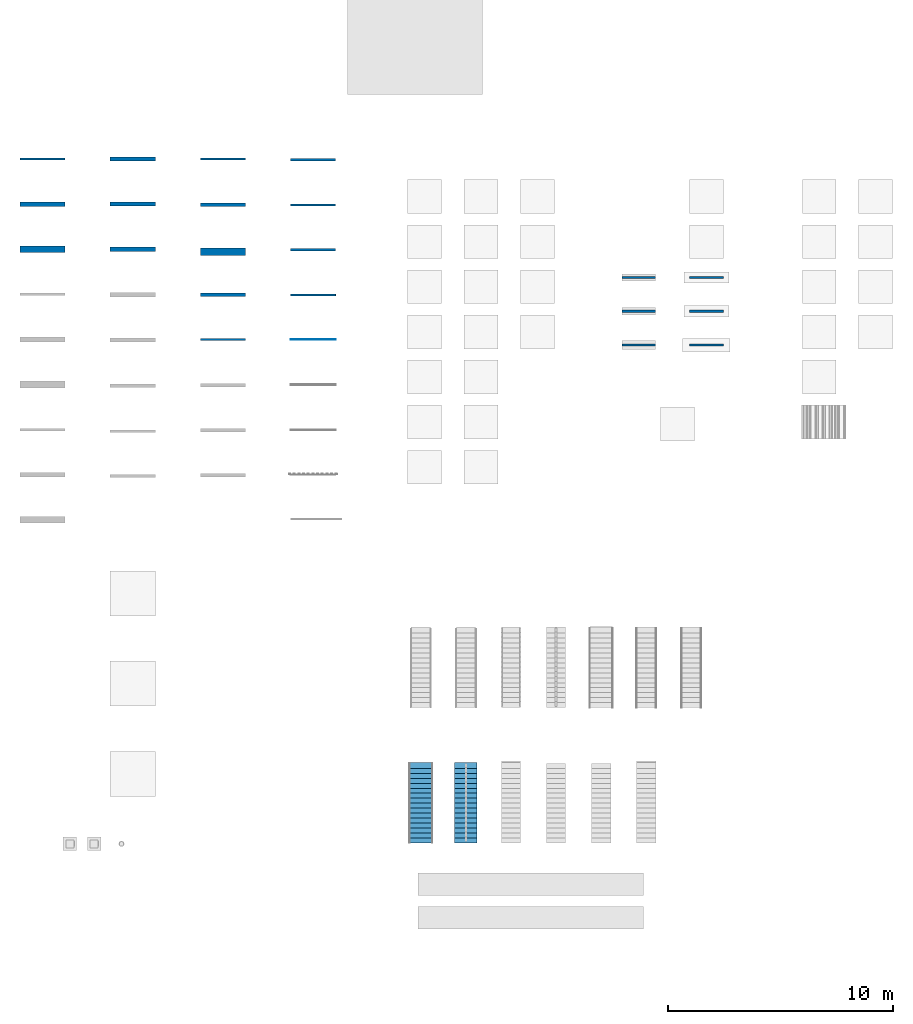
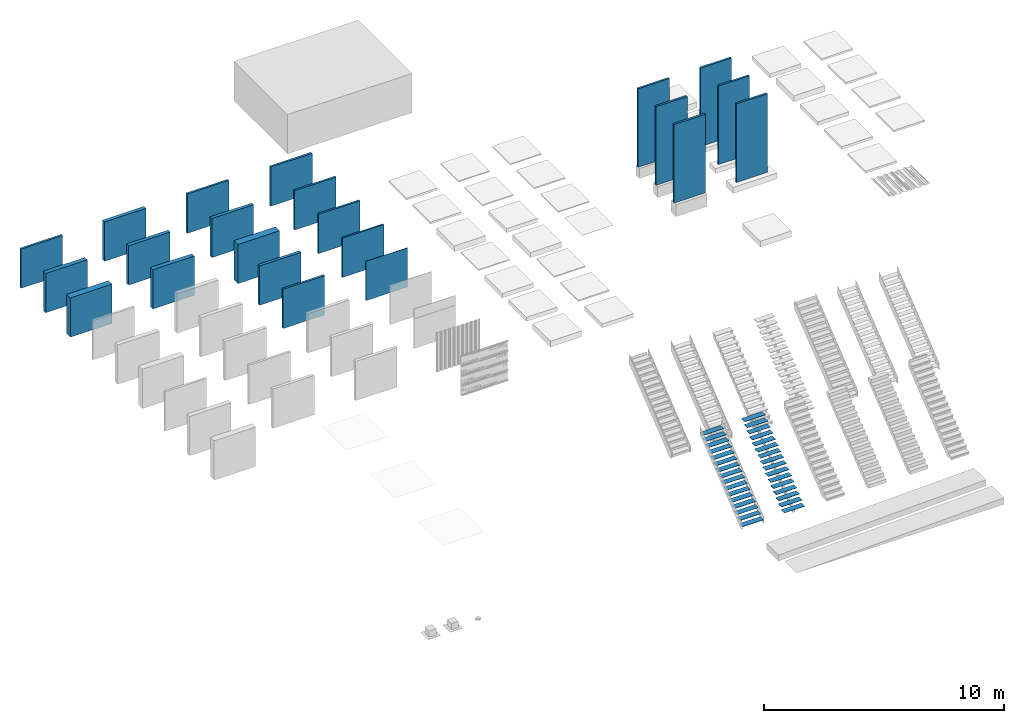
# One storey, part 5 of 14: 22 walls, 2 stair flights, 2 elements without a shape of their own.
"""IFC2X3 building model written with IfcOpenShell, lengths in millimetres."""

from ifc_helpers import new_model, entity, si_unit, converted_unit, derived_unit, direction, frame, frame_2d, origin, origin_2d_with_axis, place, context, subcontext, project, spatial, rectangle, extrude, material, layer, layer_set, layer_usage, type_object, element, aggregate, save


model = new_model("IFC2X3")

# Units and contexts
model_context = context("Model", 3, precision=0.01, world=origin(), true_north=direction((6.12303176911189e-17, 1.0)))
body_context = subcontext(model_context, "Body", "Model", "MODEL_VIEW")
ifc_project = project(units=[si_unit("LENGTHUNIT", "METRE", prefix="MILLI"), si_unit("AREAUNIT", "SQUARE_METRE"), si_unit("VOLUMEUNIT", "CUBIC_METRE"), converted_unit("PLANEANGLEUNIT", "DEGREE", entity("IfcRatioMeasure", 0.0174532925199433), si_unit("PLANEANGLEUNIT", "RADIAN"), dimensions=[0, 0, 0, 0, 0, 0, 0]), si_unit("MASSUNIT", "GRAM", prefix="KILO"), si_unit("TIMEUNIT", "SECOND"), si_unit("FREQUENCYUNIT", "HERTZ"), si_unit("THERMODYNAMICTEMPERATUREUNIT", "KELVIN"), derived_unit("THERMALTRANSMITTANCEUNIT", [(si_unit("MASSUNIT", "GRAM", prefix="KILO"), 1), (si_unit("THERMODYNAMICTEMPERATUREUNIT", "KELVIN"), -1), (si_unit("TIMEUNIT", "SECOND"), -3)]), derived_unit("VOLUMETRICFLOWRATEUNIT", [(si_unit("LENGTHUNIT", "METRE"), 3), (si_unit("TIMEUNIT", "SECOND"), -1)]), si_unit("ELECTRICCURRENTUNIT", "AMPERE"), si_unit("ELECTRICVOLTAGEUNIT", "VOLT"), si_unit("POWERUNIT", "WATT")], contexts=[model_context])

# Site, building, storey
site_placement = place(None, origin())
site = spatial("IfcSite", under=ifc_project, at=site_placement, Name="Surface", CompositionType="ELEMENT")
building_placement = place(site_placement, origin())
building = spatial("IfcBuilding", under=site, at=building_placement, CompositionType="ELEMENT")
storey_placement = place(building_placement, origin())
storey = spatial("IfcBuildingStorey", under=building, at=storey_placement, Name="00_begane grond", CompositionType="ELEMENT", Elevation=0.0)

# Walls
ifc_material_1 = material(Name="Default")
ifc_layer_1 = layer(ifc_material_1, 100.0)
ifc_layer_set_1 = layer_set([ifc_layer_1], Name="Basic Wall:20_WA_wand_generiek_100")
ifc_layer_usage_1 = layer_usage(ifc_layer_set_1, "AXIS2", "NEGATIVE", 50.0)
wall_type_1 = type_object("IfcWallType", Name="Basic Wall:20_WA_wand_generiek_100", PredefinedType="STANDARD", material=ifc_layer_set_1)
wall_1_placement = place(storey_placement, frame((0.0, -1000.0, 0.0)))
element("IfcWallStandardCase", 1, at=wall_1_placement, inside=storey, type_object=wall_type_1, material=ifc_layer_usage_1, Name="Basic Wall:20_WA_wand_generiek_100", ObjectType="Basic Wall:20_WA_wand_generiek_100:1384", context=body_context, shape_type="SweptSolid", body=[
    extrude(rectangle(XDim=2000.0, YDim=100.0, at=frame_2d((1000.0, -7.105427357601e-15), x_axis=(-1.0, 0.0))), origin(), (0.0, 0.0, 1.0), 2000.0),
])
ifc_layer_usage_2 = layer_usage(ifc_layer_set_1, "AXIS2", "NEGATIVE", 50.0)
wall_2_placement = place(storey_placement, frame((29689.8687148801, -6248.9380073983, 0.0)))
element("IfcWallStandardCase", 2, at=wall_2_placement, inside=storey, type_object=wall_type_1, material=ifc_layer_usage_2, Name="Basic Wall:20_WA_wand_generiek_100", ObjectType="Basic Wall:20_WA_wand_generiek_100:1384", context=body_context, shape_type="SweptSolid", body=[
    extrude(rectangle(XDim=1500.0, YDim=99.9999999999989, at=frame_2d((750.000000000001, -7.8159700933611e-14), x_axis=(-1.0, 0.0))), origin(), (0.0, 0.0, 1.0), 4000.0),
])
ifc_layer_usage_3 = layer_usage(ifc_layer_set_1, "AXIS2", "NEGATIVE", 50.0)
wall_3_placement = place(storey_placement, frame((29689.8687148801, -7748.9380073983, 0.0)))
element("IfcWallStandardCase", 3, at=wall_3_placement, inside=storey, type_object=wall_type_1, material=ifc_layer_usage_3, Name="Basic Wall:20_WA_wand_generiek_100", ObjectType="Basic Wall:20_WA_wand_generiek_100:1384", context=body_context, shape_type="SweptSolid", body=[
    extrude(rectangle(XDim=1500.0, YDim=100.000000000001, at=frame_2d((750.000000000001, -8.17124146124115e-14), x_axis=(-1.0, 0.0))), origin(), (0.0, 0.0, 1.0), 4000.0),
])
ifc_layer_usage_4 = layer_usage(ifc_layer_set_1, "AXIS2", "NEGATIVE", 50.0)
wall_4_placement = place(storey_placement, frame((29689.8687148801, -9248.9380073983, 0.0)))
element("IfcWallStandardCase", 4, at=wall_4_placement, inside=storey, type_object=wall_type_1, material=ifc_layer_usage_4, Name="Basic Wall:20_WA_wand_generiek_100", ObjectType="Basic Wall:20_WA_wand_generiek_100:1384", context=body_context, shape_type="SweptSolid", body=[
    extrude(rectangle(XDim=1500.0, YDim=99.9999999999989, at=frame_2d((750.000000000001, -7.8159700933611e-14), x_axis=(-1.0, 0.0))), origin(), (0.0, 0.0, 1.0), 4000.0),
])
ifc_layer_usage_5 = layer_usage(ifc_layer_set_1, "AXIS2", "NEGATIVE", 50.0)
wall_5_placement = place(storey_placement, frame((26689.8687148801, -6248.93800739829, 0.0)))
element("IfcWallStandardCase", 5, at=wall_5_placement, inside=storey, type_object=wall_type_1, material=ifc_layer_usage_5, Name="Basic Wall:20_WA_wand_generiek_100", ObjectType="Basic Wall:20_WA_wand_generiek_100:1384", context=body_context, shape_type="SweptSolid", body=[
    extrude(rectangle(XDim=1500.0, YDim=100.000000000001, at=frame_2d((750.000000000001, -8.17124146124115e-14), x_axis=(-1.0, 0.0))), origin(), (0.0, 0.0, 1.0), 4000.0),
])
ifc_layer_usage_6 = layer_usage(ifc_layer_set_1, "AXIS2", "NEGATIVE", 50.0)
wall_6_placement = place(storey_placement, frame((26689.8687148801, -7748.93800739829, 0.0)))
element("IfcWallStandardCase", 6, at=wall_6_placement, inside=storey, type_object=wall_type_1, material=ifc_layer_usage_6, Name="Basic Wall:20_WA_wand_generiek_100", ObjectType="Basic Wall:20_WA_wand_generiek_100:1384", context=body_context, shape_type="SweptSolid", body=[
    extrude(rectangle(XDim=1500.0, YDim=99.9999999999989, at=frame_2d((750.000000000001, -7.8159700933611e-14), x_axis=(-1.0, 0.0))), origin(), (0.0, 0.0, 1.0), 4000.0),
])
ifc_layer_usage_7 = layer_usage(ifc_layer_set_1, "AXIS2", "NEGATIVE", 50.0)
wall_7_placement = place(storey_placement, frame((26689.86871488, -9248.93800739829, 0.0)))
element("IfcWallStandardCase", 7, at=wall_7_placement, inside=storey, type_object=wall_type_1, material=ifc_layer_usage_7, Name="Basic Wall:20_WA_wand_generiek_100", ObjectType="Basic Wall:20_WA_wand_generiek_100:1384", context=body_context, shape_type="SweptSolid", body=[
    extrude(rectangle(XDim=1500.0, YDim=100.000000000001, at=frame_2d((750.000000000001, -8.17124146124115e-14), x_axis=(-1.0, 0.0))), origin(), (0.0, 0.0, 1.0), 4000.0),
])
ifc_layer_2 = layer(ifc_material_1, 200.0)
ifc_layer_set_2 = layer_set([ifc_layer_2], Name="Basic Wall:20_WA_wand_generiek_200")
ifc_layer_usage_8 = layer_usage(ifc_layer_set_2, "AXIS2", "NEGATIVE", 100.0)
wall_type_2 = type_object("IfcWallType", Name="Basic Wall:20_WA_wand_generiek_200", PredefinedType="STANDARD", material=ifc_layer_set_2)
wall_8_placement = place(storey_placement, frame((0.0, -3000.0, 0.0)))
element("IfcWallStandardCase", 8, at=wall_8_placement, inside=storey, type_object=wall_type_2, material=ifc_layer_usage_8, Name="Basic Wall:20_WA_wand_generiek_200", ObjectType="Basic Wall:20_WA_wand_generiek_200", context=body_context, shape_type="SweptSolid", body=[
    extrude(rectangle(XDim=2000.0, YDim=200.0, at=frame_2d((1000.0, -7.105427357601e-15), x_axis=(-1.0, 0.0))), origin(), (0.0, 0.0, 1.0), 2000.0),
])
ifc_layer_3 = layer(ifc_material_1, 300.0)
ifc_layer_set_3 = layer_set([ifc_layer_3], Name="Basic Wall:20_WA_wand_generiek_300")
ifc_layer_usage_9 = layer_usage(ifc_layer_set_3, "AXIS2", "NEGATIVE", 150.0)
wall_type_3 = type_object("IfcWallType", Name="Basic Wall:20_WA_wand_generiek_300", PredefinedType="STANDARD", material=ifc_layer_set_3)
wall_9_placement = place(storey_placement, frame((0.0, -5000.0, 0.0)))
element("IfcWallStandardCase", 9, at=wall_9_placement, inside=storey, type_object=wall_type_3, material=ifc_layer_usage_9, Name="Basic Wall:20_WA_wand_generiek_300", ObjectType="Basic Wall:20_WA_wand_generiek_300", context=body_context, shape_type="SweptSolid", body=[
    extrude(rectangle(XDim=2000.0, YDim=300.000000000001, at=frame_2d((1000.0, -2.70006239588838e-13), x_axis=(-1.0, 0.0))), origin(), (0.0, 0.0, 1.0), 2000.0),
])
ifc_material_2 = material(Name="20_baksteen_wf_210x100x50_10mm_voeg_halfsteens_rood_genuanceerd")
ifc_layer_4 = layer(ifc_material_2, 100.0)
ifc_material_3 = material(Name="00_lucht_spouw_muur_geventileerd")
ifc_layer_5 = layer(ifc_material_3, 70.0)
ifc_layer_set_4 = layer_set([ifc_layer_4, ifc_layer_5], Name="Basic Wall:-70")
ifc_layer_usage_10 = layer_usage(ifc_layer_set_4, "AXIS2", "NEGATIVE", 85.0)
wall_type_4 = type_object("IfcWallType", Name="Basic Wall:-70", PredefinedType="STANDARD", material=ifc_layer_set_4)
wall_10_placement = place(storey_placement, frame((4000.0, -1000.0, 0.0)))
element("IfcWallStandardCase", 10, at=wall_10_placement, inside=storey, type_object=wall_type_4, material=ifc_layer_usage_10, Name="Basic Wall:-70", ObjectType="Basic Wall:-70", context=body_context, shape_type="SweptSolid", body=[
    extrude(rectangle(XDim=2000.0, YDim=170.0, at=frame_2d((1000.0, -7.105427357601e-15), x_axis=(-1.0, 0.0))), origin(), (0.0, 0.0, 1.0), 2000.0),
])
ifc_layer_6 = layer(ifc_material_2, 100.0)
ifc_layer_7 = layer(ifc_material_3, 20.0)
ifc_material_4 = material(Name="20_isolatie_steenwol")
ifc_layer_8 = layer(ifc_material_4, 50.0)
ifc_layer_set_5 = layer_set([ifc_layer_6, ifc_layer_7, ifc_layer_8], Name="Basic Wall:21_WA_mw_spouw_iso-sw_170_100-20-50")
ifc_layer_usage_11 = layer_usage(ifc_layer_set_5, "AXIS2", "NEGATIVE", 85.0)
wall_type_5 = type_object("IfcWallType", Name="Basic Wall:21_WA_mw_spouw_iso-sw_170_100-20-50", PredefinedType="STANDARD", material=ifc_layer_set_5)
wall_11_placement = place(storey_placement, frame((4000.0, -3000.0, 0.0)))
element("IfcWallStandardCase", 11, at=wall_11_placement, inside=storey, type_object=wall_type_5, material=ifc_layer_usage_11, Name="Basic Wall:21_WA_mw_spouw_iso-sw_170_100-20-50", ObjectType="Basic Wall:21_WA_mw_spouw_iso-sw_170_100-20-50", context=body_context, shape_type="SweptSolid", body=[
    extrude(rectangle(XDim=2000.0, YDim=170.0, at=frame_2d((1000.0, -7.105427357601e-15), x_axis=(-1.0, 0.0))), origin(), (0.0, 0.0, 1.0), 2000.0),
])
ifc_layer_9 = layer(ifc_material_2, 100.0)
ifc_layer_10 = layer(ifc_material_3, 30.0)
ifc_layer_11 = layer(ifc_material_4, 70.0)
ifc_layer_set_6 = layer_set([ifc_layer_9, ifc_layer_10, ifc_layer_11], Name="Basic Wall:21_WA_mw_spouw_iso-sw_200_100-30-70")
ifc_layer_usage_12 = layer_usage(ifc_layer_set_6, "AXIS2", "NEGATIVE", 100.0)
wall_type_6 = type_object("IfcWallType", Name="Basic Wall:21_WA_mw_spouw_iso-sw_200_100-30-70", PredefinedType="STANDARD", material=ifc_layer_set_6)
wall_12_placement = place(storey_placement, frame((4000.0, -5000.0, 0.0)))
element("IfcWallStandardCase", 12, at=wall_12_placement, inside=storey, type_object=wall_type_6, material=ifc_layer_usage_12, Name="Basic Wall:21_WA_mw_spouw_iso-sw_200_100-30-70", ObjectType="Basic Wall:21_WA_mw_spouw_iso-sw_200_100-30-70", context=body_context, shape_type="SweptSolid", body=[
    extrude(rectangle(XDim=2000.0, YDim=200.0, at=frame_2d((1000.0, -7.105427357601e-15), x_axis=(-1.0, 0.0))), origin(), (0.0, 0.0, 1.0), 2000.0),
])
ifc_material_5 = material(Name="28_kalkzandsteen_CS16")
ifc_layer_12 = layer(ifc_material_5, 100.0)
ifc_layer_set_7 = layer_set([ifc_layer_12], Name="Basic Wall:28_WA_kzs_CS16_100")
ifc_layer_usage_13 = layer_usage(ifc_layer_set_7, "AXIS2", "NEGATIVE", 50.0)
wall_type_7 = type_object("IfcWallType", Name="Basic Wall:28_WA_kzs_CS16_100", PredefinedType="STANDARD", material=ifc_layer_set_7)
wall_13_placement = place(storey_placement, frame((8000.0, -1000.0, 0.0)))
element("IfcWallStandardCase", 13, at=wall_13_placement, inside=storey, type_object=wall_type_7, material=ifc_layer_usage_13, Name="Basic Wall:28_WA_kzs_CS16_100", ObjectType="Basic Wall:28_WA_kzs_CS16_100", context=body_context, shape_type="SweptSolid", body=[
    extrude(rectangle(XDim=2000.0, YDim=100.0, at=frame_2d((1000.0, -7.105427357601e-15), x_axis=(-1.0, 0.0))), origin(), (0.0, 0.0, 1.0), 2000.0),
])
ifc_layer_13 = layer(ifc_material_5, 150.0)
ifc_layer_set_8 = layer_set([ifc_layer_13], Name="Basic Wall:28_WA_kzs_CS16_150")
ifc_layer_usage_14 = layer_usage(ifc_layer_set_8, "AXIS2", "NEGATIVE", 75.0)
wall_type_8 = type_object("IfcWallType", Name="Basic Wall:28_WA_kzs_CS16_150", PredefinedType="STANDARD", material=ifc_layer_set_8)
wall_14_placement = place(storey_placement, frame((8000.0, -3025.0, 0.0)))
element("IfcWallStandardCase", 14, at=wall_14_placement, inside=storey, type_object=wall_type_8, material=ifc_layer_usage_14, Name="Basic Wall:28_WA_kzs_CS16_150", ObjectType="Basic Wall:28_WA_kzs_CS16_150", context=body_context, shape_type="SweptSolid", body=[
    extrude(rectangle(XDim=2000.0, YDim=150.000000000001, at=frame_2d((1000.0, -7.105427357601e-15), x_axis=(-1.0, 0.0))), origin(), (0.0, 0.0, 1.0), 2000.0),
])
ifc_layer_14 = layer(ifc_material_5, 150.0)
ifc_layer_15 = layer(ifc_material_3, 30.0)
ifc_layer_16 = layer(ifc_material_5, 150.0)
ifc_layer_set_9 = layer_set([ifc_layer_14, ifc_layer_15, ifc_layer_16], Name="Basic Wall:28_WA_kzs-CS16_spouw_kzs-C16_330_150-30-150")
ifc_layer_usage_15 = layer_usage(ifc_layer_set_9, "AXIS2", "NEGATIVE", 165.0)
wall_type_9 = type_object("IfcWallType", Name="Basic Wall:28_WA_kzs-CS16_spouw_kzs-C16_330_150-30-150", PredefinedType="STANDARD", material=ifc_layer_set_9)
wall_15_placement = place(storey_placement, frame((8000.0, -5115.0, 0.0)))
element("IfcWallStandardCase", 15, at=wall_15_placement, inside=storey, type_object=wall_type_9, material=ifc_layer_usage_15, Name="Basic Wall:28_WA_kzs-CS16_spouw_kzs-C16_330_150-30-150", ObjectType="Basic Wall:28_WA_kzs-CS16_spouw_kzs-C16_330_150-30-150", context=body_context, shape_type="SweptSolid", body=[
    extrude(rectangle(XDim=2000.0, YDim=330.000000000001, at=frame_2d((1000.0, 0.0), x_axis=(-1.0, 0.0))), origin(), (0.0, 0.0, 1.0), 2000.0),
])
ifc_material_6 = material(Name="28_poriso_dragend")
ifc_layer_17 = layer(ifc_material_6, 140.0)
ifc_layer_set_10 = layer_set([ifc_layer_17], Name="Basic Wall:28_WA_por_PM25_140")
ifc_layer_usage_16 = layer_usage(ifc_layer_set_10, "AXIS2", "NEGATIVE", 70.0)
wall_type_10 = type_object("IfcWallType", Name="Basic Wall:28_WA_por_PM25_140", PredefinedType="STANDARD", material=ifc_layer_set_10)
wall_16_placement = place(storey_placement, frame((8000.0, -7020.0, 0.0)))
element("IfcWallStandardCase", 16, at=wall_16_placement, inside=storey, type_object=wall_type_10, material=ifc_layer_usage_16, Name="Basic Wall:28_WA_por_PM25_140", ObjectType="Basic Wall:28_WA_por_PM25_140", context=body_context, shape_type="SweptSolid", body=[
    extrude(rectangle(XDim=2000.0, YDim=140.000000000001, at=frame_2d((1000.0, -7.105427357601e-15), x_axis=(-1.0, 0.0))), origin(), (0.0, 0.0, 1.0), 2000.0),
])
ifc_material_7 = material(Name="28_cellenbeton_G4/600")
ifc_layer_18 = layer(ifc_material_7, 100.0)
ifc_layer_set_11 = layer_set([ifc_layer_18], Name="Basic Wall:28_WA_cb_G4/600_100")
ifc_layer_usage_17 = layer_usage(ifc_layer_set_11, "AXIS2", "NEGATIVE", 50.0)
wall_type_11 = type_object("IfcWallType", Name="Basic Wall:28_WA_cb_G4/600_100", PredefinedType="STANDARD", material=ifc_layer_set_11)
wall_17_placement = place(storey_placement, frame((8000.0, -9000.0, 0.0)))
element("IfcWallStandardCase", 17, at=wall_17_placement, inside=storey, type_object=wall_type_11, material=ifc_layer_usage_17, Name="Basic Wall:28_WA_cb_G4/600_100", ObjectType="Basic Wall:28_WA_cb_G4/600_100", context=body_context, shape_type="SweptSolid", body=[
    extrude(rectangle(XDim=2000.0, YDim=100.000000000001, at=frame_2d((1000.0, -1.06581410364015e-14), x_axis=(-1.0, 0.0))), origin(), (0.0, 0.0, 1.0), 2000.0),
])
ifc_material_8 = material(Name="22_kalkzandsteen_CS12")
ifc_layer_19 = layer(ifc_material_8, 100.0)
ifc_layer_set_12 = layer_set([ifc_layer_19], Name="Basic Wall:22_WA_kzs_CS12_100")
ifc_layer_usage_18 = layer_usage(ifc_layer_set_12, "AXIS2", "NEGATIVE", 50.0)
wall_type_12 = type_object("IfcWallType", Name="Basic Wall:22_WA_kzs_CS12_100", PredefinedType="STANDARD", material=ifc_layer_set_12)
wall_18_placement = place(storey_placement, frame((12000.0, -1035.0, 0.0)))
element("IfcWallStandardCase", 18, at=wall_18_placement, inside=storey, type_object=wall_type_12, material=ifc_layer_usage_18, Name="Basic Wall:22_WA_kzs_CS12_100", ObjectType="Basic Wall:22_WA_kzs_CS12_100", context=body_context, shape_type="SweptSolid", body=[
    extrude(rectangle(XDim=2000.0, YDim=100.0, at=frame_2d((1000.0, -7.105427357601e-15), x_axis=(-1.0, 0.0))), origin(), (0.0, 0.0, 1.0), 2000.0),
])
ifc_material_9 = material(Name="22_cellenbeton G2/400")
ifc_layer_20 = layer(ifc_material_9, 100.0)
ifc_layer_set_13 = layer_set([ifc_layer_20], Name="Basic Wall:22_WA_cb_G2/400_100")
ifc_layer_usage_19 = layer_usage(ifc_layer_set_13, "AXIS2", "NEGATIVE", 50.0)
wall_type_13 = type_object("IfcWallType", Name="Basic Wall:22_WA_cb_G2/400_100", PredefinedType="STANDARD", material=ifc_layer_set_13)
wall_19_placement = place(storey_placement, frame((12000.0, -3035.0, 0.0)))
element("IfcWallStandardCase", 19, at=wall_19_placement, inside=storey, type_object=wall_type_13, material=ifc_layer_usage_19, Name="Basic Wall:22_WA_cb_G2/400_100", ObjectType="Basic Wall:22_WA_cb_G2/400_100", context=body_context, shape_type="SweptSolid", body=[
    extrude(rectangle(XDim=2000.0, YDim=100.0, at=frame_2d((1000.0, -7.105427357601e-15), x_axis=(-1.0, 0.0))), origin(), (0.0, 0.0, 1.0), 2000.0),
])
ifc_material_10 = material(Name="22_gips_beplating_wand_610mm")
ifc_layer_21 = layer(ifc_material_10, 12.5)
ifc_layer_22 = layer(ifc_material_4, 70.0)
ifc_layer_23 = layer(ifc_material_10, 12.5)
ifc_layer_set_14 = layer_set([ifc_layer_21, ifc_layer_22, ifc_layer_23], Name="Basic Wall:22_WA_ms-wand_gips_isolatie_gips_95_12.5-70-12.5")
ifc_layer_usage_20 = layer_usage(ifc_layer_set_14, "AXIS2", "NEGATIVE", 47.5)
wall_type_14 = type_object("IfcWallType", Name="Basic Wall:22_WA_ms-wand_gips_isolatie_gips_95_12.5-70-12.5", PredefinedType="STANDARD", material=ifc_layer_set_14)
wall_20_placement = place(storey_placement, frame((12000.0, -5020.0, 0.0)))
element("IfcWallStandardCase", 20, at=wall_20_placement, inside=storey, type_object=wall_type_14, material=ifc_layer_usage_20, Name="Basic Wall:22_WA_ms-wand_gips_isolatie_gips_95_12.5-70-12.5", ObjectType="Basic Wall:22_WA_ms-wand_gips_isolatie_gips_95_12.5-70-12.5", context=body_context, shape_type="SweptSolid", body=[
    extrude(rectangle(XDim=2000.0, YDim=95.0000000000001, at=frame_2d((1000.0, -7.105427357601e-15), x_axis=(-1.0, 0.0))), origin(), (0.0, 0.0, 1.0), 2000.0),
])
ifc_material_11 = material(Name="22_glazen_bouwsteen")
ifc_layer_24 = layer(ifc_material_11, 80.0)
ifc_layer_set_15 = layer_set([ifc_layer_24], Name="Basic Wall:22_WA_glazen_bouwsteen_80")
ifc_layer_usage_21 = layer_usage(ifc_layer_set_15, "AXIS2", "NEGATIVE", 40.0)
wall_type_15 = type_object("IfcWallType", Name="Basic Wall:22_WA_glazen_bouwsteen_80", PredefinedType="STANDARD", material=ifc_layer_set_15)
wall_21_placement = place(storey_placement, frame((12000.0, -7025.0, 0.0)))
element("IfcWallStandardCase", 21, at=wall_21_placement, inside=storey, type_object=wall_type_15, material=ifc_layer_usage_21, Name="Basic Wall:22_WA_glazen_bouwsteen_80", ObjectType="Basic Wall:22_WA_glazen_bouwsteen_80", context=body_context, shape_type="SweptSolid", body=[
    extrude(rectangle(XDim=2000.0, YDim=79.9999999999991, at=frame_2d((1000.0, -7.105427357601e-15), x_axis=(-1.0, 0.0))), origin(), (0.0, 0.0, 1.0), 2000.0),
])
ifc_material_12 = material(Name="40_stucwerk_interieur_fijn_wit")
ifc_layer_25 = layer(ifc_material_12, 20.0)
ifc_layer_set_16 = layer_set([ifc_layer_25], Name="Basic Wall:42_WA_stucwerk_20")
ifc_layer_usage_22 = layer_usage(ifc_layer_set_16, "AXIS2", "NEGATIVE", 10.0)
wall_type_16 = type_object("IfcWallType", Name="Basic Wall:42_WA_stucwerk_20", PredefinedType="STANDARD", material=ifc_layer_set_16)
wall_22_placement = place(storey_placement, frame((12000.0, -9007.50000000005, 0.0)))
element("IfcWallStandardCase", 22, at=wall_22_placement, inside=storey, type_object=wall_type_16, material=ifc_layer_usage_22, Name="Basic Wall:42_WA_stucwerk_20", ObjectType="Basic Wall:42_WA_stucwerk_20", context=body_context, shape_type="SweptSolid", body=[
    extrude(rectangle(XDim=2000.0, YDim=19.9999999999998, at=frame_2d((1000.0, -7.99360577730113e-15), x_axis=(-1.0, 0.0))), origin(), (0.0, 0.0, 1.0), 2000.0),
])

# Stair, stair flight
stair_1_placement = place(storey_placement, origin())
stair_1 = element("IfcStair", 23, at=stair_1_placement, inside=storey, Name="Assembled Stair:Stair", ShapeType="NOTDEFINED")
ifc_material_13 = material(Name="24_staal_gegalvaniseerd_rooster_generiek")
stair_flight_1_placement = place(stair_1_placement, frame((17274.8089026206, -31324.6322235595, 0.0)))
stair_flight_1 = element("IfcStairFlight", 24, at=stair_flight_1_placement, material=ifc_material_13, Name="Assembled Stair:Stair:69305 Run 1", ObjectType="Assembled Stair:24_ST_stalen trap_open_b=1000_op=185_aan=350", NumberOfRiser=17, NumberOfTreads=16, RiserHeight=0.578971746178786, TreadLength=0.721784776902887, context=body_context, shape_type="SweptSolid", body=[
    extrude(rectangle(XDim=270.000000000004, YDim=1000.0, at=frame_2d((2.1600499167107e-12, -2.1600499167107e-12), x_axis=(1.0, 0.0))), frame((500.0, 135.0, 161.470588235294), z_axis=(0.0, 0.0, 1.0), x_axis=(0.0, -1.0, 0.0)), (0.0, 0.0, 1.0), 15.0),
    extrude(rectangle(XDim=269.999999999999, YDim=1000.0, at=frame_2d((4.32009983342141e-12, -2.1600499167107e-12), x_axis=(1.0, 0.0))), frame((500.0, 355.0, 337.941176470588), z_axis=(0.0, 0.0, 1.0), x_axis=(0.0, -1.0, 0.0)), (0.0, 0.0, 1.0), 15.0),
    extrude(rectangle(XDim=270.000000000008, YDim=1000.0, at=frame_2d((-4.33431068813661e-12, -1.08002495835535e-12), x_axis=(1.0, 0.0))), frame((500.0, 575.0, 514.411764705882), z_axis=(0.0, 0.0, 1.0), x_axis=(0.0, -1.0, 0.0)), (0.0, 0.0, 1.0), 15.0),
    extrude(rectangle(XDim=269.999999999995, YDim=1000.0, at=frame_2d((-2.1600499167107e-12, -2.18847162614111e-12), x_axis=(1.0, 0.0))), frame((500.0, 795.0, 690.882352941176), z_axis=(0.0, 0.0, 1.0), x_axis=(0.0, -1.0, 0.0)), (0.0, 0.0, 1.0), 15.0),
    extrude(rectangle(XDim=270.000000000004, YDim=1000.0, at=frame_2d((2.1600499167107e-12, -2.18847162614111e-12), x_axis=(1.0, 0.0))), frame((500.0, 1015.0, 867.35294117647), z_axis=(0.0, 0.0, 1.0), x_axis=(0.0, -1.0, 0.0)), (0.0, 0.0, 1.0), 15.0),
    extrude(rectangle(XDim=269.999999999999, YDim=1000.0, at=frame_2d((0.0, -2.18847162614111e-12), x_axis=(1.0, 0.0))), frame((500.0, 1235.0, 1043.82352941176), z_axis=(0.0, 0.0, 1.0), x_axis=(0.0, -1.0, 0.0)), (0.0, 0.0, 1.0), 15.0),
    extrude(rectangle(XDim=270.000000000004, YDim=1000.0, at=frame_2d((-2.1600499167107e-12, -2.18847162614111e-12), x_axis=(1.0, 0.0))), frame((500.0, 1455.0, 1220.29411764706), z_axis=(0.0, 0.0, 1.0), x_axis=(0.0, -1.0, 0.0)), (0.0, 0.0, 1.0), 15.0000000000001),
    extrude(rectangle(XDim=270.000000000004, YDim=1000.0, at=frame_2d((-2.1600499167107e-12, -1.08002495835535e-12), x_axis=(1.0, 0.0))), frame((500.0, 1675.0, 1396.76470588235), z_axis=(0.0, 0.0, 1.0), x_axis=(0.0, -1.0, 0.0)), (0.0, 0.0, 1.0), 15.0000000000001),
    extrude(rectangle(XDim=269.999999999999, YDim=1000.0, at=frame_2d((4.33431068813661e-12, -1.08002495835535e-12), x_axis=(1.0, 0.0))), frame((500.0, 1895.0, 1573.23529411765), z_axis=(0.0, 0.0, 1.0), x_axis=(0.0, -1.0, 0.0)), (0.0, 0.0, 1.0), 15.0000000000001),
    extrude(rectangle(XDim=270.000000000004, YDim=1000.0, at=frame_2d((2.1600499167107e-12, 0.0), x_axis=(1.0, 0.0))), frame((500.0, 2115.0, 1749.70588235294), z_axis=(0.0, 0.0, 1.0), x_axis=(0.0, -1.0, 0.0)), (0.0, 0.0, 1.0), 15.0000000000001),
    extrude(rectangle(XDim=269.999999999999, YDim=1000.0, at=frame_2d((4.32009983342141e-12, 0.0), x_axis=(1.0, 0.0))), frame((500.0, 2335.0, 1926.17647058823), z_axis=(0.0, 0.0, 1.0), x_axis=(0.0, -1.0, 0.0)), (0.0, 0.0, 1.0), 15.0000000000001),
    extrude(rectangle(XDim=269.999999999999, YDim=1000.0, at=origin_2d_with_axis()), frame((500.0, 2555.0, 2102.64705882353), z_axis=(0.0, 0.0, 1.0), x_axis=(0.0, -1.0, 0.0)), (0.0, 0.0, 1.0), 15.0000000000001),
    extrude(rectangle(XDim=270.000000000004, YDim=1000.0, at=frame_2d((-2.1600499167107e-12, 0.0), x_axis=(1.0, 0.0))), frame((500.0, 2775.0, 2279.11764705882), z_axis=(0.0, 0.0, 1.0), x_axis=(0.0, -1.0, 0.0)), (0.0, 0.0, 1.0), 15.0000000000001),
    extrude(rectangle(XDim=270.000000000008, YDim=1000.0, at=frame_2d((0.0, 1.08002495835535e-12), x_axis=(1.0, 0.0))), frame((500.0, 2995.0, 2455.58823529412), z_axis=(0.0, 0.0, 1.0), x_axis=(0.0, -1.0, 0.0)), (0.0, 0.0, 1.0), 14.9999999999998),
    extrude(rectangle(XDim=269.999999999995, YDim=1000.0, at=frame_2d((2.1600499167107e-12, 0.0), x_axis=(1.0, 0.0))), frame((500.0, 3215.0, 2632.05882352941), z_axis=(0.0, 0.0, 1.0), x_axis=(0.0, -1.0, 0.0)), (0.0, 0.0, 1.0), 14.9999999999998),
    extrude(rectangle(XDim=270.000000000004, YDim=1000.0, at=frame_2d((-2.1600499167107e-12, 0.0), x_axis=(1.0, 0.0))), frame((500.0, 3435.0, 2808.5294117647), z_axis=(0.0, 0.0, 1.0), x_axis=(0.0, -1.0, 0.0)), (0.0, 0.0, 1.0), 14.9999999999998),
])
aggregate(stair_1, [stair_flight_1])

stair_2_placement = place(storey_placement, origin())
stair_2 = element("IfcStair", 25, at=stair_2_placement, inside=storey, Name="Assembled Stair:Stair", ShapeType="NOTDEFINED")
stair_flight_2_placement = place(stair_2_placement, frame((19274.8089026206, -31324.6322235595, 0.0)))
stair_flight_2 = element("IfcStairFlight", 26, at=stair_flight_2_placement, material=ifc_material_13, Name="Assembled Stair:Stair:69309 Run 1", ObjectType="Assembled Stair:24_ST_stalen trap_open_middenboom_b=1000_op=185_aan=220", NumberOfRiser=17, NumberOfTreads=16, RiserHeight=0.578971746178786, TreadLength=0.721784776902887, context=body_context, shape_type="SweptSolid", body=[
    extrude(rectangle(XDim=270.000000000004, YDim=999.999999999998, at=frame_2d((-2.1600499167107e-12, 0.0), x_axis=(1.0, 0.0))), frame((500.0, 135.0, 161.470588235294), z_axis=(0.0, 0.0, 1.0), x_axis=(0.0, -1.0, 0.0)), (0.0, 0.0, 1.0), 15.0),
    extrude(rectangle(XDim=269.999999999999, YDim=999.999999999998, at=origin_2d_with_axis()), frame((500.0, 355.0, 337.941176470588), z_axis=(0.0, 0.0, 1.0), x_axis=(0.0, -1.0, 0.0)), (0.0, 0.0, 1.0), 15.0),
    extrude(rectangle(XDim=270.000000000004, YDim=999.999999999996, at=frame_2d((2.1600499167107e-12, 1.10844666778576e-12), x_axis=(1.0, 0.0))), frame((500.0, 575.0, 514.411764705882), z_axis=(0.0, 0.0, 1.0), x_axis=(0.0, -1.0, 0.0)), (0.0, 0.0, 1.0), 15.0),
    extrude(rectangle(XDim=269.999999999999, YDim=999.999999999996, at=frame_2d((0.0, 1.10844666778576e-12), x_axis=(1.0, 0.0))), frame((500.0, 795.0, 690.882352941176), z_axis=(0.0, 0.0, 1.0), x_axis=(0.0, -1.0, 0.0)), (0.0, 0.0, 1.0), 15.0),
    extrude(rectangle(XDim=270.000000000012, YDim=999.999999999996, at=frame_2d((-6.49436060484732e-12, 1.10844666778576e-12), x_axis=(1.0, 0.0))), frame((500.0, 1015.0, 867.35294117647), z_axis=(0.0, 0.0, 1.0), x_axis=(0.0, -1.0, 0.0)), (0.0, 0.0, 1.0), 15.0),
    extrude(rectangle(XDim=269.999999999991, YDim=1000.0, at=frame_2d((4.33431068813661e-12, 1.10844666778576e-12), x_axis=(1.0, 0.0))), frame((500.0, 1235.0, 1043.82352941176), z_axis=(0.0, 0.0, 1.0), x_axis=(0.0, -1.0, 0.0)), (0.0, 0.0, 1.0), 15.0),
    extrude(rectangle(XDim=270.000000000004, YDim=1000.0, at=frame_2d((2.1600499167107e-12, -1.10844666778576e-12), x_axis=(1.0, 0.0))), frame((500.0, 1455.0, 1220.29411764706), z_axis=(0.0, 0.0, 1.0), x_axis=(0.0, -1.0, 0.0)), (0.0, 0.0, 1.0), 15.0000000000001),
    extrude(rectangle(XDim=269.999999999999, YDim=999.999999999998, at=frame_2d((-4.32009983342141e-12, 0.0), x_axis=(1.0, 0.0))), frame((500.0, 1675.0, 1396.76470588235), z_axis=(0.0, 0.0, 1.0), x_axis=(0.0, -1.0, 0.0)), (0.0, 0.0, 1.0), 15.0000000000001),
    extrude(rectangle(XDim=270.000000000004, YDim=999.999999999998, at=frame_2d((-2.1600499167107e-12, 0.0), x_axis=(1.0, 0.0))), frame((500.0, 1895.0, 1573.23529411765), z_axis=(0.0, 0.0, 1.0), x_axis=(0.0, -1.0, 0.0)), (0.0, 0.0, 1.0), 15.0000000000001),
    extrude(rectangle(XDim=269.999999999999, YDim=999.999999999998, at=origin_2d_with_axis()), frame((500.0, 2115.0, 1749.70588235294), z_axis=(0.0, 0.0, 1.0), x_axis=(0.0, -1.0, 0.0)), (0.0, 0.0, 1.0), 15.0000000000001),
    extrude(rectangle(XDim=270.000000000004, YDim=999.999999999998, at=frame_2d((-2.1600499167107e-12, 0.0), x_axis=(1.0, 0.0))), frame((500.0, 2335.0, 1926.17647058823), z_axis=(0.0, 0.0, 1.0), x_axis=(0.0, -1.0, 0.0)), (0.0, 0.0, 1.0), 15.0000000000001),
    extrude(rectangle(XDim=270.000000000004, YDim=999.999999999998, at=frame_2d((2.1600499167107e-12, 0.0), x_axis=(1.0, 0.0))), frame((500.0, 2555.0, 2102.64705882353), z_axis=(0.0, 0.0, 1.0), x_axis=(0.0, -1.0, 0.0)), (0.0, 0.0, 1.0), 15.0000000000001),
    extrude(rectangle(XDim=269.999999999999, YDim=999.999999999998, at=origin_2d_with_axis()), frame((500.0, 2775.0, 2279.11764705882), z_axis=(0.0, 0.0, 1.0), x_axis=(0.0, -1.0, 0.0)), (0.0, 0.0, 1.0), 15.0000000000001),
    extrude(rectangle(XDim=270.000000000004, YDim=999.999999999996, at=frame_2d((-2.1600499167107e-12, 1.10844666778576e-12), x_axis=(1.0, 0.0))), frame((500.0, 2995.0, 2455.58823529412), z_axis=(0.0, 0.0, 1.0), x_axis=(0.0, -1.0, 0.0)), (0.0, 0.0, 1.0), 14.9999999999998),
    extrude(rectangle(XDim=269.999999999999, YDim=999.999999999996, at=frame_2d((0.0, 1.10844666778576e-12), x_axis=(1.0, 0.0))), frame((500.0, 3215.0, 2632.05882352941), z_axis=(0.0, 0.0, 1.0), x_axis=(0.0, -1.0, 0.0)), (0.0, 0.0, 1.0), 14.9999999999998),
    extrude(rectangle(XDim=270.000000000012, YDim=999.999999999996, at=frame_2d((-6.49436060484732e-12, 1.10844666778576e-12), x_axis=(1.0, 0.0))), frame((500.0, 3435.0, 2808.5294117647), z_axis=(0.0, 0.0, 1.0), x_axis=(0.0, -1.0, 0.0)), (0.0, 0.0, 1.0), 14.9999999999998),
])
aggregate(stair_2, [stair_flight_2])

save(model, "model.ifc")
